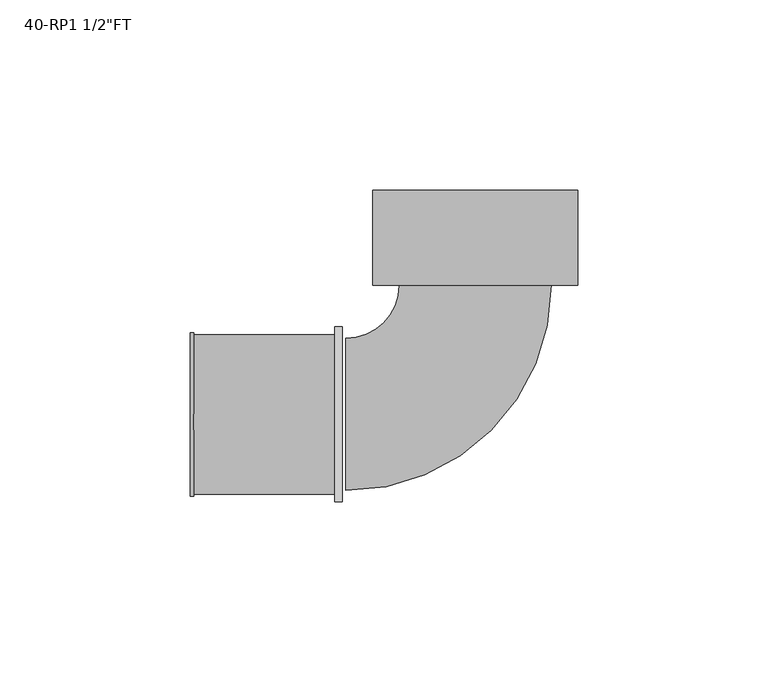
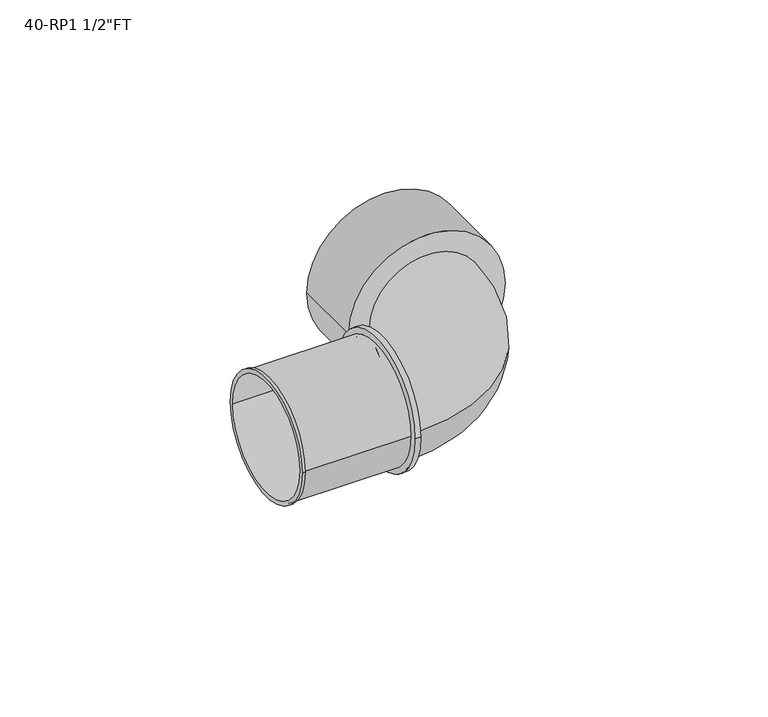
"""IFC4 building model written with IfcOpenShell, lengths in millimetres: pipe fitting geometry."""

from ifc_helpers import new_model, si_unit, point, frame, origin, origin_2d, place, context, project, spatial, polyline, circle_curve, ellipse_curve, trimmed, segment, composite_curve, outline, extrude, source, transform, mapped, element, save
from ifc_brep_helpers import plane_surface, cylinder_surface, revolved_surface, advanced_brep


def pipe_fitting_7aab8a70(model_context):
    return source(origin(), model_context, "Body", "SolidModel", [
        advanced_brep(
        [(-27.0, 59.0, 0.0), (27.0, 59.0, 0.0), (-22.0, 59.0, 0.0), (22.0, 59.0, 0.0), (-27.0, 34.0, 0.0), (27.0, 34.0, 0.0), (-22.0, 35.0, 0.0), (22.0, 35.0, 0.0)],
        [
            (0, 1, circle_curve(frame((0.0, 59.0, 0.0), z_axis=(0.0, 1.0, 0.0), x_axis=(1.0, 0.0, 0.0)), 27.0)),
            (1, 0, circle_curve(frame((0.0, 59.0, 0.0), z_axis=(0.0, 1.0, 0.0), x_axis=(1.0, 0.0, 0.0)), 27.0)),
            (2, 3, circle_curve(frame((0.0, 59.0, 0.0), z_axis=(0.0, -1.0, 0.0), x_axis=(1.0, 0.0, 0.0)), 22.0)),
            (3, 2, circle_curve(frame((0.0, 59.0, 0.0), z_axis=(0.0, -1.0, 0.0), x_axis=(1.0, 0.0, 0.0)), 22.0)),
            (4, 5, circle_curve(frame((0.0, 34.0, 0.0), z_axis=(0.0, -1.0, 0.0), x_axis=(1.0, 0.0, 0.0)), 27.0)),
            (5, 4, circle_curve(frame((0.0, 34.0, 0.0), z_axis=(0.0, -1.0, 0.0), x_axis=(1.0, 0.0, 0.0)), 27.0)),
            (1, 5),
            (4, 0),
            (2, 6),
            (6, 7, circle_curve(frame((0.0, 35.0, 0.0), z_axis=(0.0, -1.0, 0.0), x_axis=(1.0, 0.0, 0.0)), 22.0)),
            (7, 3),
            (7, 6, circle_curve(frame((0.0, 35.0, 0.0), z_axis=(0.0, -1.0, 0.0), x_axis=(1.0, 0.0, 0.0)), 22.0)),
        ],
        [
            plane_surface(frame((0.0, 59.0, 0.0), z_axis=(0.0, 1.0, 0.0), x_axis=(0.0, 0.0, 1.0))),
            plane_surface(frame((0.0, 34.0, 0.0), z_axis=(0.0, -1.0, 0.0), x_axis=(0.0, 0.0, 1.0))),
            cylinder_surface(frame((0.0, 59.0, 0.0), z_axis=(0.0, 1.0, 0.0), x_axis=(1.0, 0.0, 0.0)), 27.0),
            revolved_surface(polyline([(22.0, 35.0, 0.0), (22.0, 59.0, 0.0)]), (0.0, 59.0, 0.0), (0.0, -1.0, 0.0)),
            plane_surface(frame((0.0, 35.0, 0.0), z_axis=(0.0, 1.0, 0.0), x_axis=(0.0, 0.0, 1.0))),
        ],
        [
            (0, [[1, 2], [3, 4]]),
            (1, [[5, 6]]),
            (2, [[-2, 7, -5, 8]]),
            (2, [[-1, -8, -6, -7]]),
            (3, [[-3, 9, 10, 11]]),
            (3, [[-4, -11, 12, -9]]),
            (4, [[-10, -12]]),
        ],
    ),
        advanced_brep(
        [(-34.0, -20.0, 0.0), (-34.0, 20.0, 0.0), (20.0, 34.0, 0.0), (-20.0, 34.0, 0.0)],
        [
            (0, 1, circle_curve(frame((-34.0, 0.0, 0.0), z_axis=(-1.0, 0.0, 0.0), x_axis=(0.0, 1.0, 0.0)), 20.0)),
            (1, 0, circle_curve(frame((-34.0, 0.0, 0.0), z_axis=(-1.0, 0.0, 0.0), x_axis=(0.0, 1.0, 0.0)), 20.0)),
            (2, 3, circle_curve(frame((0.0, 34.0, 0.0), z_axis=(0.0, 1.0, 0.0), x_axis=(-1.0, 0.0, 0.0)), 20.0)),
            (3, 2, circle_curve(frame((0.0, 34.0, 0.0), z_axis=(0.0, 1.0, 0.0), x_axis=(-1.0, 0.0, 0.0)), 20.0)),
            (3, 1, circle_curve(frame((-34.0, 34.0, 0.0), z_axis=(0.0, 0.0, -1.0), x_axis=(0.0, -1.0, 0.0)), 14.0)),
            (0, 2, circle_curve(frame((-34.0, 34.0, 0.0), z_axis=(0.0, 0.0, 1.0), x_axis=(0.0, -1.0, 0.0)), 54.0)),
        ],
        [
            plane_surface(frame((-34.0, 0.0, 0.0), z_axis=(-1.0, 0.0, 0.0), x_axis=(0.0, 0.0, 1.0))),
            plane_surface(frame((0.0, 34.0, 0.0), z_axis=(0.0, 1.0, 0.0), x_axis=(0.0, 0.0, 1.0))),
            revolved_surface(trimmed(ellipse_curve(frame((-34.0, 0.0, 0.0), z_axis=(-1.0, 0.0, 0.0), x_axis=(0.0, 1.0, 0.0)), 20.0, 20.0), [point((-34.0, -20.0, 0.0))], [point((-34.0, 20.0, 0.0))], True, "CARTESIAN"), (-34.0, 34.0, 0.0), (0.0, 0.0, 1.0)),
            revolved_surface(trimmed(ellipse_curve(frame((-34.0, 0.0, 0.0), z_axis=(-1.0, 0.0, 0.0), x_axis=(0.0, 1.0, 0.0)), 20.0, 20.0), [point((-34.0, 20.0, 0.0))], [point((-34.0, -20.0, 0.0))], True, "CARTESIAN"), (-34.0, 34.0, 0.0), (0.0, 0.0, 1.0)),
        ],
        [
            (0, [[1, 2]]),
            (1, [[3, 4]]),
            (2, [[5, -1, 6, -4]]),
            (3, [[-6, -2, -5, -3]]),
        ],
    ),
        extrude(outline(composite_curve([segment(trimmed(circle_curve(origin_2d(), 23.0), [point((-23.0, 0.0))], [point((23.0, 0.0))], False, "CARTESIAN"), True, "CONTINUOUS"), segment(trimmed(circle_curve(origin_2d(), 23.0), [point((23.0, 0.0))], [point((-23.0, 0.0))], False, "CARTESIAN"), True, "CONTINUOUS")], self_intersect=False), holes=[composite_curve([segment(trimmed(circle_curve(origin_2d(), 20.0), [point((-20.0, 0.0))], [point((20.0, 0.0))], True, "CARTESIAN"), True, "CONTINUOUS"), segment(trimmed(circle_curve(origin_2d(), 20.0), [point((20.0, 0.0))], [point((-20.0, 0.0))], True, "CARTESIAN"), True, "CONTINUOUS")], self_intersect=False)]), frame((-37.0, 0.0, 0.0), z_axis=(1.0, 0.0, 0.0), x_axis=(0.0, 1.0, 0.0)), (0.0, 0.0, 1.0), 2.0),
        advanced_brep(
        [(-75.0, -21.5, 0.0), (-75.0, 21.5, 0.0), (-75.0, -20.0, 0.0), (-75.0, 20.0, 0.0), (-37.0, -21.0, 0.0), (-37.0, 21.0, 0.0), (-37.0, -20.0, 0.0), (-37.0, 20.0, 0.0), (-74.0, 21.0, 0.0), (-74.0, -21.0, 0.0), (-74.0, -21.5, 0.0), (-74.0, 21.5, 0.0)],
        [
            (0, 1, circle_curve(frame((-75.0, 0.0, 0.0), z_axis=(-1.0, 0.0, 0.0), x_axis=(0.0, 1.0, 0.0)), 21.5)),
            (1, 0, circle_curve(frame((-75.0, 0.0, 0.0), z_axis=(-1.0, 0.0, 0.0), x_axis=(0.0, 1.0, 0.0)), 21.5)),
            (2, 3, circle_curve(frame((-75.0, 0.0, 0.0), z_axis=(1.0, 0.0, 0.0), x_axis=(0.0, 1.0, 0.0)), 20.0)),
            (3, 2, circle_curve(frame((-75.0, 0.0, 0.0), z_axis=(1.0, 0.0, 0.0), x_axis=(0.0, 1.0, 0.0)), 20.0)),
            (4, 5, circle_curve(frame((-37.0, 0.0, 0.0), z_axis=(1.0, 0.0, 0.0), x_axis=(0.0, 1.0, 0.0)), 21.0)),
            (5, 4, circle_curve(frame((-37.0, 0.0, 0.0), z_axis=(1.0, 0.0, 0.0), x_axis=(0.0, 1.0, 0.0)), 21.0)),
            (6, 7, circle_curve(frame((-37.0, 0.0, 0.0), z_axis=(-1.0, 0.0, 0.0), x_axis=(0.0, 1.0, 0.0)), 20.0)),
            (7, 6, circle_curve(frame((-37.0, 0.0, 0.0), z_axis=(-1.0, 0.0, 0.0), x_axis=(0.0, 1.0, 0.0)), 20.0)),
            (2, 6),
            (7, 3),
            (5, 8),
            (8, 9, circle_curve(frame((-74.0, 0.0, 0.0), z_axis=(1.0, 0.0, 0.0), x_axis=(0.0, 1.0, 0.0)), 21.0)),
            (9, 4),
            (9, 8, circle_curve(frame((-74.0, 0.0, 0.0), z_axis=(1.0, 0.0, 0.0), x_axis=(0.0, 1.0, 0.0)), 21.0)),
            (10, 11, circle_curve(frame((-74.0, 0.0, 0.0), z_axis=(1.0, 0.0, 0.0), x_axis=(0.0, 1.0, 0.0)), 21.5)),
            (11, 10, circle_curve(frame((-74.0, 0.0, 0.0), z_axis=(1.0, 0.0, 0.0), x_axis=(0.0, 1.0, 0.0)), 21.5)),
            (0, 10),
            (11, 1),
        ],
        [
            plane_surface(frame((-75.0, 0.0, 0.0), z_axis=(-1.0, 0.0, 0.0), x_axis=(0.0, 0.0, 1.0))),
            plane_surface(frame((-37.0, 0.0, 0.0), z_axis=(1.0, 0.0, 0.0), x_axis=(0.0, 0.0, 1.0))),
            revolved_surface(polyline([(-37.0, 20.0, 0.0), (-75.0, 20.0, 0.0)]), (-75.0, 0.0, 0.0), (1.0, 0.0, 0.0)),
            cylinder_surface(frame((-75.0, 0.0, 0.0), z_axis=(-1.0, 0.0, 0.0), x_axis=(0.0, 1.0, 0.0)), 21.0),
            plane_surface(frame((-74.0, 0.0, 0.0), z_axis=(1.0, 0.0, 0.0), x_axis=(0.0, 0.0, 1.0))),
            cylinder_surface(frame((-75.0, 0.0, 0.0), z_axis=(-1.0, 0.0, 0.0), x_axis=(0.0, 1.0, 0.0)), 21.5),
        ],
        [
            (0, [[1, 2], [3, 4]]),
            (1, [[5, 6], [7, 8]]),
            (2, [[-3, 9, -8, 10]]),
            (2, [[-4, -10, -7, -9]]),
            (3, [[-6, 11, 12, 13]]),
            (3, [[-5, -13, 14, -11]]),
            (4, [[15, 16], [-12, -14]]),
            (5, [[-1, 17, -16, 18]]),
            (5, [[-2, -18, -15, -17]]),
        ],
    ),
    ])


if __name__ == "__main__":
    model = new_model("IFC4")
    model_context = context("Model", 3, world=origin())
    ifc_project = project(units=[si_unit("LENGTHUNIT", "METRE", prefix="MILLI")], contexts=[model_context])
    site = spatial("IfcSite", under=ifc_project)
    building = spatial("IfcBuilding", under=site)
    placement = place(None, origin())
    pipe_fitting_shape = pipe_fitting_7aab8a70(model_context)
    element("IfcPipeFitting", 1, ObjectType="SuperPipe_ElbowAdapterFT_MAX_RP : 40-RP1 1/2\"FT", at=placement, inside=building, context=model_context, shape_type="MappedRepresentation", body=[
        mapped(pipe_fitting_shape, transform((0.0, 0.0, 0.0), x_axis=(1.0, 0.0, 0.0), y_axis=(0.0, 1.0, 0.0), z_axis=(0.0, 0.0, 1.0))),
    ])
    save(model, "model.ifc")
